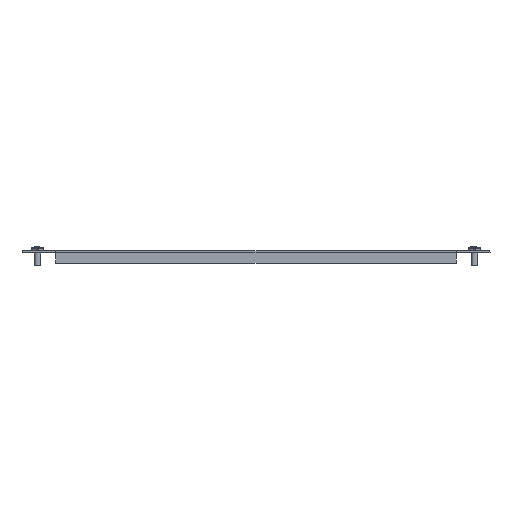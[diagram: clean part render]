
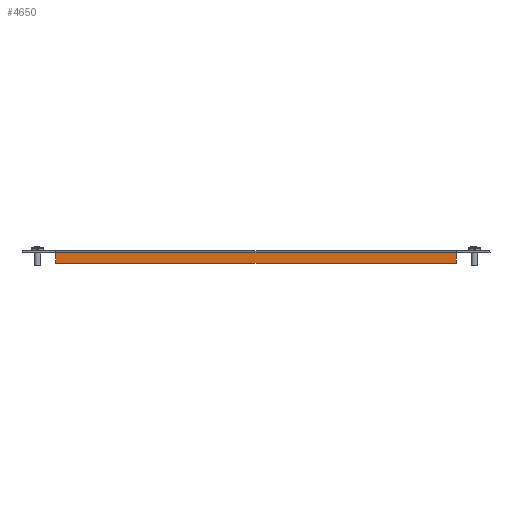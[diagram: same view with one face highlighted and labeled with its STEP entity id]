
A CAD part, front view. The second image highlights one B-rep face of the part: STEP entity #4650.
In plain terms, the highlighted planar face has unit normal (0, -1, 0).
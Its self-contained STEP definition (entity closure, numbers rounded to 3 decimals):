
#38 = DIRECTION ( 'NONE',  ( 0., 0., 1. ) ) ;
#141 = VERTEX_POINT ( 'NONE', #425 ) ;
#154 = ORIENTED_EDGE ( 'NONE', *, *, #5980, .F. ) ;
#163 = VERTEX_POINT ( 'NONE', #3790 ) ;
#175 = LINE ( 'NONE', #5468, #804 ) ;
#253 = LINE ( 'NONE', #2090, #410 ) ;
#273 = EDGE_CURVE ( 'NONE', #141, #2546, #3284, .T. ) ;
#319 = CARTESIAN_POINT ( 'NONE',  ( -160.5, -735., 0. ) ) ;
#410 = VECTOR ( 'NONE', #5425, 1000. ) ;
#425 = CARTESIAN_POINT ( 'NONE',  ( 160.5, -735., -10. ) ) ;
#585 = DIRECTION ( 'NONE',  ( 0., 0., 1. ) ) ;
#717 = VECTOR ( 'NONE', #38, 1000. ) ;
#725 = CARTESIAN_POINT ( 'NONE',  ( -160.5, -735., -2.4 ) ) ;
#804 = VECTOR ( 'NONE', #585, 1000. ) ;
#917 = CARTESIAN_POINT ( 'NONE',  ( -160.5, -735., -10. ) ) ;
#1250 = LINE ( 'NONE', #3152, #5655 ) ;
#1274 = VERTEX_POINT ( 'NONE', #319 ) ;
#1367 = VECTOR ( 'NONE', #5633, 1000. ) ;
#1399 = FACE_OUTER_BOUND ( 'NONE', #1916, .T. ) ;
#1581 = ORIENTED_EDGE ( 'NONE', *, *, #3880, .T. ) ;
#1798 = DIRECTION ( 'NONE',  ( 0., -1., 0. ) ) ;
#1916 = EDGE_LOOP ( 'NONE', ( #154, #3127, #1581, #5949, #3783, #5995 ) ) ;
#1958 = CARTESIAN_POINT ( 'NONE',  ( 160.5, -735., -2.4 ) ) ;
#2022 = LINE ( 'NONE', #1958, #717 ) ;
#2090 = CARTESIAN_POINT ( 'NONE',  ( -160.5, -735., 0. ) ) ;
#2258 = CARTESIAN_POINT ( 'NONE',  ( 0., -735., 0. ) ) ;
#2278 = CARTESIAN_POINT ( 'NONE',  ( 0., -735., 0. ) ) ;
#2546 = VERTEX_POINT ( 'NONE', #4817 ) ;
#2720 = LINE ( 'NONE', #2258, #6144 ) ;
#3077 = EDGE_CURVE ( 'NONE', #2546, #5527, #175, .T. ) ;
#3127 = ORIENTED_EDGE ( 'NONE', *, *, #4882, .T. ) ;
#3152 = CARTESIAN_POINT ( 'NONE',  ( 160.5, -735., -10. ) ) ;
#3284 = LINE ( 'NONE', #917, #1367 ) ;
#3299 = PLANE ( 'NONE',  #4620 ) ;
#3710 = DIRECTION ( 'NONE',  ( 0., 0., -1. ) ) ;
#3783 = ORIENTED_EDGE ( 'NONE', *, *, #3077, .F. ) ;
#3790 = CARTESIAN_POINT ( 'NONE',  ( 160.5, -735., 0. ) ) ;
#3812 = VERTEX_POINT ( 'NONE', #4124 ) ;
#3880 = EDGE_CURVE ( 'NONE', #163, #1274, #2720, .T. ) ;
#4124 = CARTESIAN_POINT ( 'NONE',  ( 160.5, -735., -2.4 ) ) ;
#4620 = AXIS2_PLACEMENT_3D ( 'NONE', #2278, #1798, #5221 ) ;
#4650 = ADVANCED_FACE ( 'NONE', ( #1399 ), #3299, .T. ) ;
#4817 = CARTESIAN_POINT ( 'NONE',  ( -160.5, -735., -10. ) ) ;
#4882 = EDGE_CURVE ( 'NONE', #3812, #163, #2022, .T. ) ;
#5221 = DIRECTION ( 'NONE',  ( 0., 0., -1. ) ) ;
#5425 = DIRECTION ( 'NONE',  ( 0., 0., 1. ) ) ;
#5468 = CARTESIAN_POINT ( 'NONE',  ( -160.5, -735., -1.8 ) ) ;
#5527 = VERTEX_POINT ( 'NONE', #725 ) ;
#5633 = DIRECTION ( 'NONE',  ( -1., 0., 0. ) ) ;
#5655 = VECTOR ( 'NONE', #3710, 1000. ) ;
#5908 = EDGE_CURVE ( 'NONE', #5527, #1274, #253, .T. ) ;
#5949 = ORIENTED_EDGE ( 'NONE', *, *, #5908, .F. ) ;
#5967 = DIRECTION ( 'NONE',  ( -1., 0., 0. ) ) ;
#5980 = EDGE_CURVE ( 'NONE', #3812, #141, #1250, .T. ) ;
#5995 = ORIENTED_EDGE ( 'NONE', *, *, #273, .F. ) ;
#6144 = VECTOR ( 'NONE', #5967, 1000. ) ;
